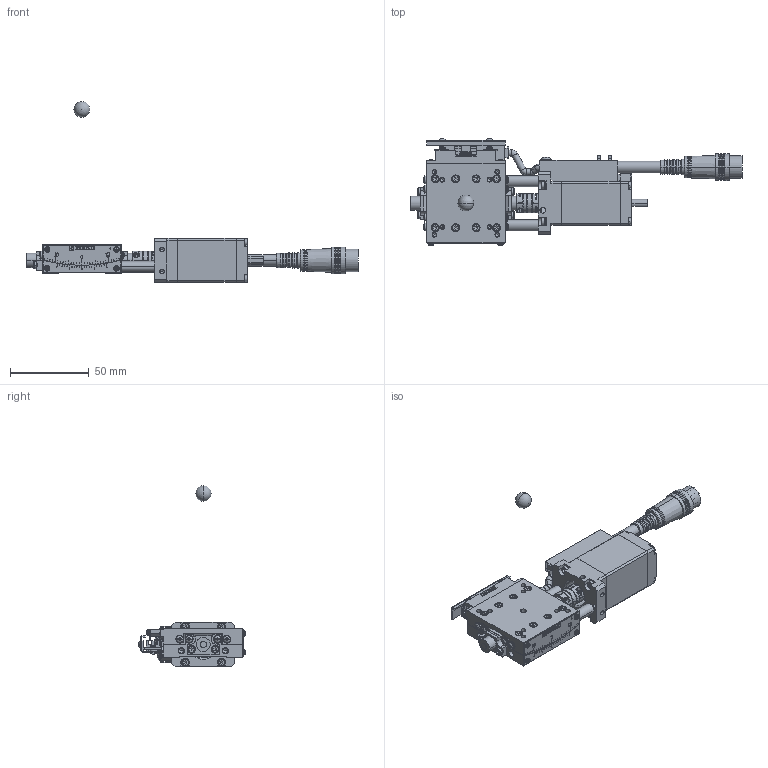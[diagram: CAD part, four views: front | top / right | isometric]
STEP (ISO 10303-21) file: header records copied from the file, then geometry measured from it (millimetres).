
FILE_DESCRIPTION (( 'STEP AP203' ), '1' );
FILE_NAME ('SA05B-RB02.STEP', '2019-02-20T06:38:22', ( '' ), ( '' ), 'SwSTEP 2.0', 'SolidWorks 2018', '' );
FILE_SCHEMA (( 'CONFIG_CONTROL_DESIGN' ));
Length unit declared in the file: millimetre
Products named in the file (7): base; base-Part-1; table; rotation center; SA05B-RB02; base-Part-3; base-Part-2
Assembly tree (6 placements, depth 3):
  SA05B-RB02
    base
      base-Part-1
      base-Part-2
      base-Part-3
    rotation center
    table
Bounding box: 211 x 67.96 x 115 mm (x, y, z)
Volume: 108567.6 mm3; surface area: 48355.2 mm2
Topology: 5 solids, 7 shells, 2695 faces, 6759 edges, 4189 vertices
Faces by surface type: plane 1661, cylinder 628, cone 222, torus 128, sphere 50, bspline 6
Entity records: 82514 total; most frequent: CARTESIAN_POINT 16207, DIRECTION 14193, ORIENTED_EDGE 13316, EDGE_CURVE 6658, AXIS2_PLACEMENT_3D 4992, LINE 4209, VECTOR 4209, VERTEX_POINT 4182
